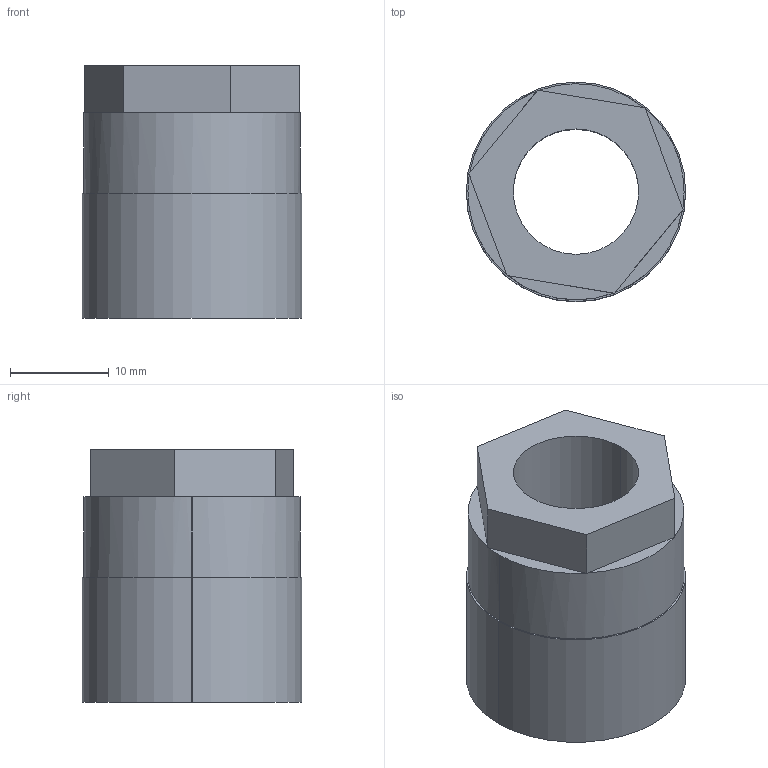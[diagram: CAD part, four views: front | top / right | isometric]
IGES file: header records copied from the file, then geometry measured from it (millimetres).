
Global section: file name: C:\Documents and Settings\Administrator\Desktop\Transfer Temp\trantorque0500.igs; native system: AutoDesk Inventor R2.0 ; preprocessor: AutoDesk Inventor Iges Exporter R2.0; author: No Author specified; organization: No Organization specified; date: 20011226.200718; units: inch
Bounding box: 22.23 x 22.23 x 25.63 mm (x, y, z)
Surface area: 3307.6 mm2 (no closed solid volume)
Topology: 0 solids, 0 shells, 27 faces, 120 edges, 120 vertices
Faces by surface type: bspline 23, revolution 4
